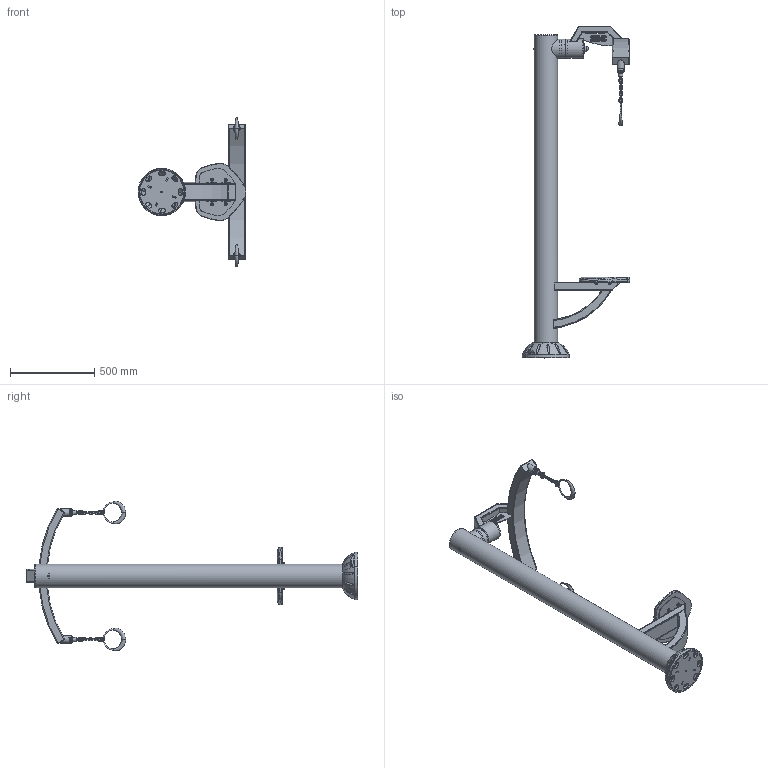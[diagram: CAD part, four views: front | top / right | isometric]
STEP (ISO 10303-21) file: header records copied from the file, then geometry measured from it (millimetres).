
FILE_DESCRIPTION (( 'STEP AP214' ), '1' );
FILE_NAME ('S0204 - PARAPENTE SIMPLE V1.2.STEP', '2016-11-29T22:55:59', ( '' ), ( '' ), 'SwSTEP 2.0', 'SolidWorks 2016', '' );
FILE_SCHEMA (( 'AUTOMOTIVE_DESIGN' ));
Length unit declared in the file: millimetre
Products named in the file (44): SR0439 - Rondelle plastique d.21 D.34 廧.3; TROSM-50-23 - Tube D.50x2,5 L=23 V1.0; SC0304 - Demi cache platine D140 V4.0; TROCSSPP107-61 - Support simple pion plat D.107 d.61 V1.0; SC0306B - Base pour capuchon en nylon 36mm; SCH1807 - Chapeau 96x46 V1.0; SBU1019 - Pion plat butée angulaire V1.1; SSD0717 - Demi support siège béton pour tube 100x50 V1.0; TROCSDPP107-24 - Support double pions plat d.107 d.24 V1.0; S0204 - PARAPENTE SIMPLE V1.2; TROSM-114-103 - Tube D.114,3x3 L=103 V1.0; RONDU-S0204 - Rondelle D36 M10 pour parapente V1.0; TROFAN-S0204A - Tube fixation anneau sur parapente V1.1; PU-TROCB1900PAS - Colonne base haute D.139,7x3 Ht1900 pour parapente simple V1.0; SRR0816 - Roulement  6204 47-20-14; SBA1600 - Bague 6204 L107 V1.0; SF1101 - Ecrou frein M10 A2; PU-TRETRAV443 - Tube rectangulaire cintré R425 100x50x3 L443 V1.0; SCH1806.A - Chapeau D135 V1.0; SR0404 - Rondelle plate Moyenne M8 A2; TOLROND107-25 - Rondelle D.107 percée d.25 V1.0; SBU1025 - Butée cylindrique D.25 L=22 V1.0; PALIER-S0204 - PALIER PARAPENTE ASS V1.1; SC0306C - Petit capuchon en nylon 36 mm; SSD0712 - SIEGE BETON ASS V1.2_Ｑ.5; TREBAL-S0204 - Tube balancier parapente V1.0; SB0112 - Vis Torx teton central M8x20_M8x20; SA1421.A - Axe acier D.25mm L314 V1.1; SR0415 - Rondelle Grower M8 A2; SR0427 - Rondelle plastique bouchon bague D60; PLATINE BASE ASS V2.0; BALAN-S0204 - BALANCIER PARAPENTE V2.0; PU-TOLGOPL - Gousset platine V2.0; SSD0712 - Siège béton V1.5; PU-TRETRAV840 - Tube rectangulaire cintré R750 100x50x3 L840 V1.0; AN2500 - Anneau SWO V2.0_L25; TDRFIT-S0204 - Tole renfort Fitpark Parapente V1.0; SC0304 - CACHE PLATINE ASS V4.0; TOLROND107-61 - Rondelle pour tube D.107 percée d.61 V1.0; SR0416 - Rondelle plate petite M10 A2 ext 22mm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
Assembly tree (68 placements, depth 4):
  S0204 - PARAPENTE SIMPLE V1.2
    BATI-S0204 - BATI PARAPENTE SIMPLE V1.1
      PLATINE BASE ASS V2.0
        PU-TOLPLAT - Platine base V1.0
        PU-TOLGOPL - Gousset platine V2.0  x4
      PALIER-S0204 - PALIER PARAPENTE ASS V1.1
        TROSM-114-103 - Tube D.114,3x3 L=103 V1.0
        TROCSDPP107-24 - Support double pions plat d.107 d.24 V1.0
        SA1421.A - Axe acier D.25mm L314 V1.1
        SC0306B - Base pour capuchon en nylon 36mm
        SC0306C - Petit capuchon en nylon 36 mm
        SF1101 - Ecrou frein M10 A2
        SR0416 - Rondelle plate petite M10 A2 ext 22mm
        TOLROND107-25 - Rondelle D.107 percée d.25 V1.0
        SBU1019 - Pion plat butée angulaire V1.1  x2
        TROSM-50-23 - Tube D.50x2,5 L=23 V1.0
      SSD0717 - Demi support siège béton pour tube 100x50 V1.0  x2
      TRESS-S0204 - Tube sous siège parapente V1.0
      PU-TRETRAV443 - Tube rectangulaire cintré R425 100x50x3 L443 V1.0
      SCH1812 - Chapeau 96x65 pour tube 100x50 coupe à 45°
      PU-TROCB1900PAS - Colonne base haute D.139,7x3 Ht1900 pour parapente simple V1.0
      SCH1806.A - Chapeau D135 V1.0
    BALAN-S0204 - BALANCIER PARAPENTE V2.0
      TROCSSPP107-61 - Support simple pion plat D.107 d.61 V1.0
      SBA1600 - Bague 6204 L107 V1.0
      TOLROND107-61 - Rondelle pour tube D.107 percée d.61 V1.0
      TROSM-114-103 - Tube D.114,3x3 L=103 V1.0
      SRR0816 - Roulement  6204 47-20-14  x2
      SR0427 - Rondelle plastique bouchon bague D60
      PU-TRETRAV840 - Tube rectangulaire cintré R750 100x50x3 L840 V1.0
      TDRFIT-S0204 - Tole renfort Fitpark Parapente V1.0
      TROFAN-S0204A - Tube fixation anneau sur parapente V1.1  x2
      TREBAL-S0204 - Tube balancier parapente V1.0
      SCH1807 - Chapeau 96x46 V1.0  x2
      SBU1019 - Pion plat butée angulaire V1.1
      RONDU-S0204 - Rondelle D36 M10 pour parapente V1.0  x2
      SR0439 - Rondelle plastique d.21 D.34 廧.3  x2
      AN2500 - Anneau SWO V2.0_L25  x2
    SC0304 - CACHE PLATINE ASS V4.0
      SC0304 - Demi cache platine D140 V4.0
      SB0112 - Vis Torx teton central M8x20_M8x20  x2
    SSD0712 - SIEGE BETON ASS V1.2_Ｑ.5
      SSD0712 - Siège béton V1.5
      SR0404 - Rondelle plate Moyenne M8 A2  x4
      SB0112 - Vis Torx teton central M8x20_M8x20  x4
      SR0415 - Rondelle Grower M8 A2  x4
    SBU1025 - Butée cylindrique D.25 L=22 V1.0  x2
Bounding box: 638.87 x 1970 x 887.18 mm (x, y, z)
Volume: 8726652.8 mm3; surface area: 3763666.7 mm2
Topology: 87 solids, 87 shells, 2236 faces, 5363 edges, 3329 vertices
Faces by surface type: plane 634, bspline 632, cylinder 625, torus 163, cone 114, sphere 68
Full cylindrical faces by diameter (mm): 1.8 x6, 6 x46, 6.647 x2, 6.8 x4, 6.95 x6, 8 x6, 8.376 x2, 8.4 x4, 8.5 x2, 9.3 x2, 10 x8, 10.5 x5, 10.8 x2, 11 x1, 16.7 x8, 17 x1, 18 x4, 20 x3, 20.2 x1, 21 x2, 22 x6, 22.6 x1, 24 x2, 24.13 x1, 25 x3, 25.2 x1, 26 x1, 26.1 x4, 27 x2, 27.052 x4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
Entity records: 169975 total; most frequent: CARTESIAN_POINT 135313, ORIENTED_EDGE 7034, DIRECTION 5415, EDGE_CURVE 3517, VERTEX_POINT 2315, AXIS2_PLACEMENT_3D 2157, EDGE_LOOP 2004, FACE_OUTER_BOUND 1756
